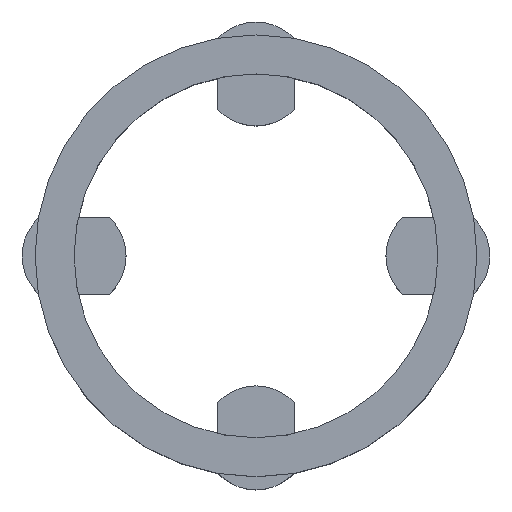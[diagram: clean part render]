
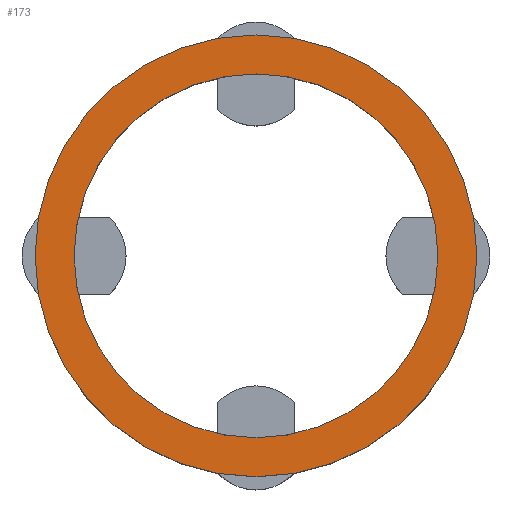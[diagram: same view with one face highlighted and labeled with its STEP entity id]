
A CAD part, top view. The second image highlights one B-rep face of the part: STEP entity #173.
In plain terms, the highlighted planar face has unit normal (0, 0, 1).
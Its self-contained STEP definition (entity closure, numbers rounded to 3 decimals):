
#135=PLANE('',#895);
#173=ADVANCED_FACE('',(#371,#372),#135,.T.);
#371=FACE_BOUND('',#395,.T.);
#372=FACE_BOUND('',#396,.T.);
#395=EDGE_LOOP('',(#483));
#396=EDGE_LOOP('',(#484));
#483=ORIENTED_EDGE('',*,*,#746,.F.);
#484=ORIENTED_EDGE('',*,*,#763,.T.);
#674=VERTEX_POINT('',#1243);
#691=VERTEX_POINT('',#1278);
#746=EDGE_CURVE('',#674,#674,#842,.T.);
#763=EDGE_CURVE('',#691,#691,#851,.T.);
#842=CIRCLE('',#884,7.);
#851=CIRCLE('',#894,8.5);
#884=AXIS2_PLACEMENT_3D('',#1242,#994,#995);
#894=AXIS2_PLACEMENT_3D('',#1277,#1022,#1023);
#895=AXIS2_PLACEMENT_3D('',#1279,#1024,#1025);
#994=DIRECTION('',(0.,0.,1.));
#995=DIRECTION('',(1.,0.,0.));
#1022=DIRECTION('',(0.,0.,1.));
#1023=DIRECTION('',(1.,0.,0.));
#1024=DIRECTION('',(0.,0.,1.));
#1025=DIRECTION('',(1.,0.,0.));
#1242=CARTESIAN_POINT('',(0.,0.,7.));
#1243=CARTESIAN_POINT('',(7.,0.,7.));
#1277=CARTESIAN_POINT('',(0.,0.,7.));
#1278=CARTESIAN_POINT('',(8.5,0.,7.));
#1279=CARTESIAN_POINT('',(0.,0.,7.));
